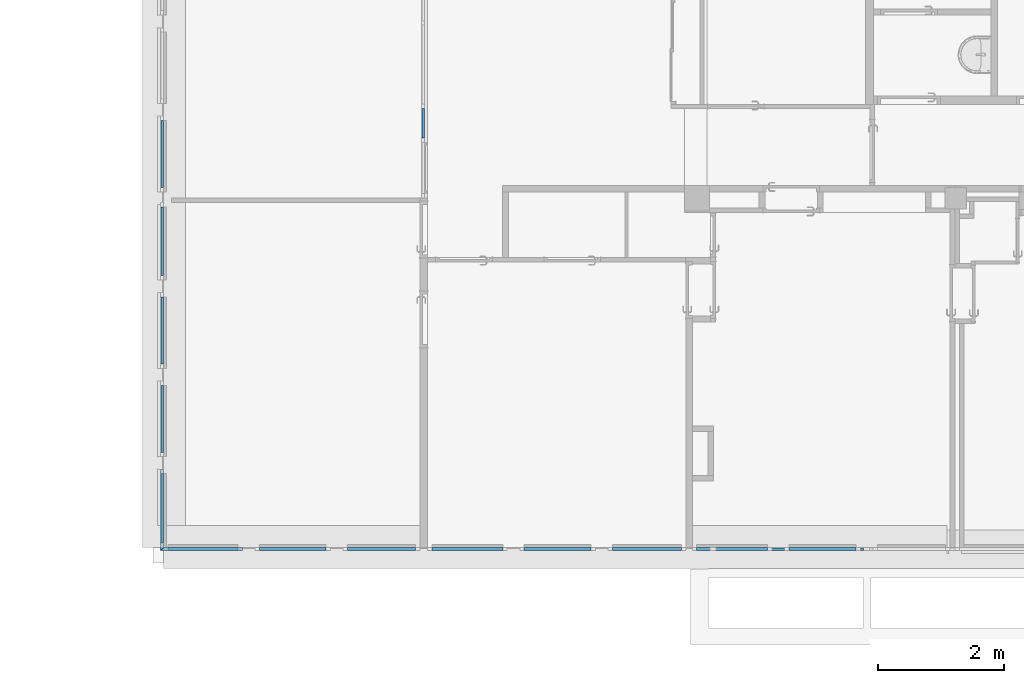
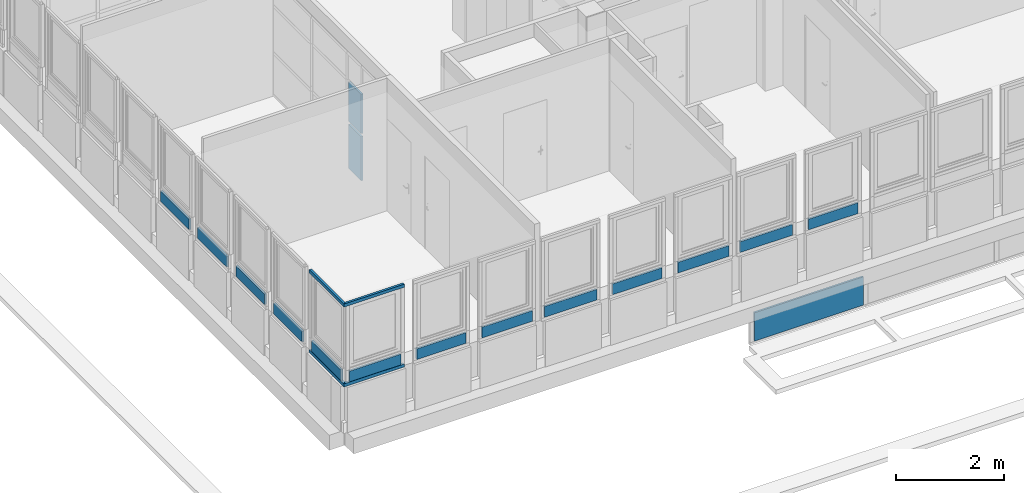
# One storey, part 26 of 97: 16 plates, 4 members, 15 elements without a shape of their own.
"""IFC4 building model written with IfcOpenShell, lengths in metres."""

from ifc_helpers import new_model, entity, si_unit, converted_unit, derived_unit, direction, frame, origin, place, context, subcontext, project, spatial, indexed_curve, outline, extrude, polygons, shape, source, transform, mapped, material, layer, layer_set, type_object, type_shapes, element, aggregate, save


model = new_model("IFC4")

# Units and contexts
model_context = context("Model", 3, precision=1e-05, world=origin(), true_north=direction((6.12303176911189e-17, 1.0)))
body_context = subcontext(model_context, "Body", "Model", "MODEL_VIEW")
footprint_context = subcontext(model_context, "FootPrint", "Model", "MODEL_VIEW")
ifc_project = project(units=[si_unit("LENGTHUNIT", "METRE"), si_unit("AREAUNIT", "SQUARE_METRE"), si_unit("VOLUMEUNIT", "CUBIC_METRE"), converted_unit("PLANEANGLEUNIT", "DEGREE", entity("IfcRatioMeasure", 0.0174532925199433), si_unit("PLANEANGLEUNIT", "RADIAN"), dimensions=[0, 0, 0, 0, 0, 0, 0]), si_unit("MASSUNIT", "GRAM", prefix="KILO"), derived_unit("MASSDENSITYUNIT", [(si_unit("MASSUNIT", "GRAM", prefix="KILO"), 1), (si_unit("LENGTHUNIT", "METRE"), -3)]), derived_unit("MOMENTOFINERTIAUNIT", [(si_unit("LENGTHUNIT", "METRE"), 4)]), si_unit("TIMEUNIT", "SECOND"), si_unit("FREQUENCYUNIT", "HERTZ"), si_unit("THERMODYNAMICTEMPERATUREUNIT", "DEGREE_CELSIUS"), derived_unit("THERMALTRANSMITTANCEUNIT", [(si_unit("MASSUNIT", "GRAM", prefix="KILO"), 1), (si_unit("THERMODYNAMICTEMPERATUREUNIT", "KELVIN"), -1), (si_unit("TIMEUNIT", "SECOND"), -3)]), derived_unit("VOLUMETRICFLOWRATEUNIT", [(si_unit("LENGTHUNIT", "METRE"), 3), (si_unit("TIMEUNIT", "SECOND"), -1)]), si_unit("ELECTRICCURRENTUNIT", "AMPERE"), si_unit("ELECTRICVOLTAGEUNIT", "VOLT"), si_unit("POWERUNIT", "WATT"), si_unit("FORCEUNIT", "NEWTON", prefix="KILO"), si_unit("ILLUMINANCEUNIT", "LUX"), si_unit("LUMINOUSFLUXUNIT", "LUMEN"), si_unit("LUMINOUSINTENSITYUNIT", "CANDELA"), derived_unit("USERDEFINED", [(si_unit("MASSUNIT", "GRAM", prefix="KILO"), -1), (si_unit("LENGTHUNIT", "METRE"), -2), (si_unit("TIMEUNIT", "SECOND"), 3), (si_unit("LUMINOUSFLUXUNIT", "LUMEN"), 1)]), derived_unit("LINEARVELOCITYUNIT", [(si_unit("LENGTHUNIT", "METRE"), 1), (si_unit("TIMEUNIT", "SECOND"), -1)]), si_unit("PRESSUREUNIT", "PASCAL"), derived_unit("USERDEFINED", [(si_unit("LENGTHUNIT", "METRE"), -2), (si_unit("MASSUNIT", "GRAM", prefix="KILO"), 1), (si_unit("TIMEUNIT", "SECOND"), -2)]), derived_unit("LINEARFORCEUNIT", [(si_unit("MASSUNIT", "GRAM", prefix="KILO"), 1), (si_unit("LENGTHUNIT", "METRE"), 1), (si_unit("TIMEUNIT", "SECOND"), -2), (si_unit("LENGTHUNIT", "METRE"), -1)]), derived_unit("PLANARFORCEUNIT", [(si_unit("MASSUNIT", "GRAM", prefix="KILO"), 1), (si_unit("LENGTHUNIT", "METRE"), 1), (si_unit("TIMEUNIT", "SECOND"), -2), (si_unit("LENGTHUNIT", "METRE"), -2)])], contexts=[model_context])

# Site, building, storey
site_placement = place(None, origin())
site = spatial("IfcSite", under=ifc_project, at=site_placement, Name="Default", CompositionType="ELEMENT")
building_placement = place(site_placement, origin())
building = spatial("IfcBuilding", under=site, at=building_placement, Name="HOTEL CONSULAIRE BOULOGNE SUR MER", CompositionType="ELEMENT")
storey_placement = place(building_placement, frame((0.0, 0.0, 3.62152697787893)))
storey = spatial("IfcBuildingStorey", under=building, at=storey_placement, Name="Niveau 1", CompositionType="ELEMENT", Elevation=3.62152697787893)

# Curtain wall, members
curtain_wall_type = type_object("IfcCurtainWallType", Name="Mur-rideau:Simple panneau", PredefinedType="NOTDEFINED")
curtain_wall_1_placement = place(storey_placement, frame((0.0, 0.0, -3.62152697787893)))
curtain_wall_1 = element("IfcCurtainWall", 1, at=curtain_wall_1_placement, inside=storey, type_object=curtain_wall_type, Name="Mur-rideau:Simple panneau", ObjectType="Mur-rideau:Simple panneau", PredefinedType="NOTDEFINED")
ifc_material_1 = material(Name="PVC - Blanc", Category="Plastique")
member_type_1 = type_object("IfcMemberType", Name="Meneau rectangulaire:50 x 35", PredefinedType="MULLION", material=ifc_material_1)
shared_shape_1 = source(origin(), body_context, "Body", "Tessellation", [
    polygons([(0.0, 0.0, 0.0), (-0.07, 0.0, 0.0), (-0.07, -0.05, 0.0), (0.0, -0.05, 0.0), (0.0, 0.0, -1.23865481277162), (-0.07, 0.0, -1.23865481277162), (-0.07, -0.05, -1.28865481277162), (0.0, -0.05, -1.28865481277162)], [[[3, 4, 1, 2]], [[2, 1, 5, 6]], [[3, 2, 6, 7]], [[4, 3, 7, 8]], [[1, 4, 8, 5]], [[8, 7, 6, 5]]], closed=True),
])
type_shapes(member_type_1, [shared_shape_1])
member_1_placement = place(storey_placement, frame((-13.7870998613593, -28.3114499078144, 2.67047302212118), z_axis=(0.0, 1.0, 0.0), x_axis=(0.0, 0.0, 1.0)))
member_1 = element("IfcMember", 2, at=member_1_placement, type_object=member_type_1, material=ifc_material_1, Name="Meneau rectangulaire:50 x 35", ObjectType="Meneau rectangulaire:50 x 35", PredefinedType="MULLION", context=body_context, shape_type="MappedRepresentation", body=[
    mapped(shared_shape_1, transform((0.0, 0.0, 0.0), scale=1.0)),
])
member_type_2 = type_object("IfcMemberType", Name="Meneau rectangulaire:50 x 35", PredefinedType="MULLION", material=ifc_material_1)
shared_shape_2 = source(origin(), body_context, "Body", "Tessellation", [
    polygons([(0.0, 0.0, -1.23865481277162), (0.0, -0.05, -1.23865481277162), (-0.07, -0.05, -1.23865481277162), (-0.07, 0.0, -1.23865481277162), (-0.07, 0.0, -3.10544761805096e-16), (0.0, 0.0, -3.10544761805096e-16), (-0.07, -0.05, 0.0499999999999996), (0.0, -0.05, 0.0499999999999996)], [[[1, 2, 3, 4]], [[5, 6, 1, 4]], [[7, 5, 4, 3]], [[8, 7, 3, 2]], [[6, 8, 2, 1]], [[5, 7, 8, 6]]], closed=True),
])
type_shapes(member_type_2, [shared_shape_2])
member_2_placement = place(storey_placement, frame((-13.7870998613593, -29.5501047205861, 0.791612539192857), z_axis=(0.0, -1.0, 0.0), x_axis=(0.0, 0.0, -1.0)))
member_2 = element("IfcMember", 3, at=member_2_placement, type_object=member_type_2, material=ifc_material_1, Name="Meneau rectangulaire:50 x 35", ObjectType="Meneau rectangulaire:50 x 35", PredefinedType="MULLION", context=body_context, shape_type="MappedRepresentation", body=[
    mapped(shared_shape_2, transform((0.0, 0.0, 0.0), scale=1.0)),
])

curtain_wall_2_placement = place(storey_placement, frame((0.0, 0.0, -3.62152697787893)))
curtain_wall_2 = element("IfcCurtainWall", 4, at=curtain_wall_2_placement, inside=storey, type_object=curtain_wall_type, Name="Mur-rideau:Simple panneau", ObjectType="Mur-rideau:Simple panneau", PredefinedType="NOTDEFINED")
member_type_3 = type_object("IfcMemberType", Name="Meneau rectangulaire:50 x 35", PredefinedType="MULLION", material=ifc_material_1)
shared_shape_3 = source(origin(), body_context, "Body", "Tessellation", [
    polygons([(0.0, 0.0, -1.24567988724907), (0.0, -0.05, -1.24567988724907), (-0.07, -0.05, -1.24567988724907), (-0.07, 0.0, -1.24567988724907), (-0.07, 0.0, -9.61886562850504e-16), (0.0, 0.0, -9.61886562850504e-16), (-0.07, -0.05, 0.049999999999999), (0.0, -0.05, 0.049999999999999)], [[[1, 2, 3, 4]], [[5, 6, 1, 4]], [[7, 5, 4, 3]], [[8, 7, 3, 2]], [[6, 8, 2, 1]], [[5, 7, 8, 6]]], closed=True),
])
type_shapes(member_type_3, [shared_shape_3])
member_3_placement = place(storey_placement, frame((-13.7870998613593, -29.5501047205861, 2.67047302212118), z_axis=(-1.0, 0.0, 0.0), x_axis=(0.0, 0.0, 1.0)))
member_3 = element("IfcMember", 5, at=member_3_placement, type_object=member_type_3, material=ifc_material_1, Name="Meneau rectangulaire:50 x 35", ObjectType="Meneau rectangulaire:50 x 35", PredefinedType="MULLION", context=body_context, shape_type="MappedRepresentation", body=[
    mapped(shared_shape_3, transform((0.0, 0.0, 0.0), scale=1.0)),
])
member_type_4 = type_object("IfcMemberType", Name="Meneau rectangulaire:50 x 35", PredefinedType="MULLION", material=ifc_material_1)
shared_shape_4 = source(origin(), body_context, "Body", "Tessellation", [
    polygons([(0.0, 0.0, 9.6188656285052e-16), (-0.07, 0.0, 9.6188656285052e-16), (-0.07, -0.05, 9.6188656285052e-16), (0.0, -0.05, 9.6188656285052e-16), (0.0, 0.0, -1.24567988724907), (-0.07, 0.0, -1.24567988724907), (-0.07, -0.05, -1.29567988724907), (0.0, -0.05, -1.29567988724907)], [[[3, 4, 1, 2]], [[2, 1, 5, 6]], [[3, 2, 6, 7]], [[4, 3, 7, 8]], [[1, 4, 8, 5]], [[8, 7, 6, 5]]], closed=True),
])
type_shapes(member_type_4, [shared_shape_4])
member_4_placement = place(storey_placement, frame((-12.5414199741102, -29.5501047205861, 0.791612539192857), z_axis=(1.0, 0.0, 0.0), x_axis=(0.0, 0.0, -1.0)))
member_4 = element("IfcMember", 6, at=member_4_placement, type_object=member_type_4, material=ifc_material_1, Name="Meneau rectangulaire:50 x 35", ObjectType="Meneau rectangulaire:50 x 35", PredefinedType="MULLION", context=body_context, shape_type="MappedRepresentation", body=[
    mapped(shared_shape_4, transform((0.0, 0.0, 0.0), scale=1.0)),
])

# Curtain wall, plate
curtain_wall_3_placement = place(storey_placement, frame((0.0, 0.0, -3.62152697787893)))
curtain_wall_3 = element("IfcCurtainWall", 7, at=curtain_wall_3_placement, inside=storey, type_object=curtain_wall_type, Name="Mur-rideau:Simple panneau", ObjectType="Mur-rideau:Simple panneau", PredefinedType="NOTDEFINED")
ifc_material_2 = material(Name="Verre", Category="Verre")
ifc_layer_1 = layer(ifc_material_2, 0.04, Name="Verre", Category="Verre")
ifc_layer_set_1 = layer_set([ifc_layer_1], Name="Mur-rideau:Simple panneau")
plate_type_1 = type_object("IfcPlateType", Name="Panneau système:Vitré", PredefinedType="CURTAIN_PANEL", material=ifc_layer_set_1)
shared_shape_5 = source(origin(), body_context, "Body", "SweptSolid", [
    extrude(outline(indexed_curve([(-0.02, -1.168), (0.02, -1.168), (0.02, 1.168), (-0.02, 1.168), (-0.02, -1.168)], self_intersect=False)), frame((1.168, 0.02, 0.0), z_axis=(0.0, 0.0, 1.0), x_axis=(0.0, 1.0, 0.0)), (0.0, 0.0, 1.0), 0.642526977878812),
])
shared_shape_6 = source(frame((-1.168, 0.00500000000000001, 0.0)), footprint_context, "FootPrint", "Curve2D", [
    entity("IfcIndexedPolyCurve", entity("IfcCartesianPointList2D", [[1.5240064, 0.003476], [1.5240064, 0.043476], [-0.8119936, 0.043476], [-0.8119936, 0.003476], [1.5240064, 0.003476]]), None, False),
])
type_shapes(plate_type_1, [shared_shape_5, shared_shape_6])
plate_1_placement = place(curtain_wall_3_placement, frame((-2.69377317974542, -29.5560671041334, 2.36600000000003), z_axis=(0.0, 0.0, 1.0), x_axis=(-1.0, 0.0, 0.0)))
plate_1 = element("IfcPlate", 8, at=plate_1_placement, type_object=plate_type_1, material=ifc_layer_set_1, Name="Panneau système:Vitré", ObjectType="Panneau système:Vitré", PredefinedType="CURTAIN_PANEL", shapes=[
    shape(body_context, "Body", "MappedRepresentation", [mapped(shared_shape_5, transform((0.0, 0.0, 0.0), scale=1.0))]),
    shape(body_context, "Body", "MappedRepresentation", [mapped(shared_shape_6, transform((0.0, 0.0, 0.0), scale=1.0))]),
])
aggregate(curtain_wall_3, [plate_1])

curtain_wall_4_placement = place(storey_placement, frame((0.0, 0.0, -3.62152697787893)))
curtain_wall_4 = element("IfcCurtainWall", 9, at=curtain_wall_4_placement, inside=storey, type_object=curtain_wall_type, Name="Mur-rideau:Simple panneau", ObjectType="Mur-rideau:Simple panneau", PredefinedType="NOTDEFINED")
plate_type_2 = type_object("IfcPlateType", Name="Panneau système:Vitré", PredefinedType="CURTAIN_PANEL", material=ifc_layer_set_1)
shared_shape_7 = source(origin(), body_context, "Body", "SweptSolid", [
    extrude(outline(indexed_curve([(-0.02, -0.530000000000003), (0.02, -0.530000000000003), (0.02, 0.530000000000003), (-0.02, 0.530000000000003), (-0.02, -0.530000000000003)], self_intersect=False)), frame((0.530000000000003, 0.02, 0.0), z_axis=(0.0, 0.0, 1.0), x_axis=(0.0, 1.0, 0.0)), (0.0, 0.0, 1.0), 0.243),
])
shared_shape_8 = source(frame((-0.530000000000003, 0.00500000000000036, 0.0)), footprint_context, "FootPrint", "Curve2D", [
    entity("IfcIndexedPolyCurve", entity("IfcCartesianPointList2D", [[0.691544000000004, 0.00347600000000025], [0.691544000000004, 0.0434760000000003], [-0.368456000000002, 0.0434760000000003], [-0.368456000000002, 0.00347600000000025], [0.691544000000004, 0.00347600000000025]]), None, False),
])
type_shapes(plate_type_2, [shared_shape_7, shared_shape_8])
plate_2_placement = place(curtain_wall_4_placement, frame((-13.7920998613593, -23.8414499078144, 4.48313951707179), z_axis=(0.0, 0.0, 1.0), x_axis=(0.0, 1.0, 0.0)))
plate_2 = element("IfcPlate", 10, at=plate_2_placement, type_object=plate_type_2, material=ifc_layer_set_1, Name="Panneau système:Vitré", ObjectType="Panneau système:Vitré", PredefinedType="CURTAIN_PANEL", shapes=[
    shape(body_context, "Body", "MappedRepresentation", [mapped(shared_shape_7, transform((0.0, 0.0, 0.0), scale=1.0))]),
    shape(body_context, "Body", "MappedRepresentation", [mapped(shared_shape_8, transform((0.0, 0.0, 0.0), scale=1.0))]),
])
aggregate(curtain_wall_4, [plate_2])

curtain_wall_5_placement = place(storey_placement, frame((0.0, 0.0, -3.62152697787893)))
curtain_wall_5 = element("IfcCurtainWall", 11, at=curtain_wall_5_placement, inside=storey, type_object=curtain_wall_type, Name="Mur-rideau:Simple panneau", ObjectType="Mur-rideau:Simple panneau", PredefinedType="NOTDEFINED")
plate_3_placement = place(curtain_wall_5_placement, frame((-13.7920998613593, -26.6414499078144, 4.48313951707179), z_axis=(0.0, 0.0, 1.0), x_axis=(0.0, 1.0, 0.0)))
plate_3 = element("IfcPlate", 12, at=plate_3_placement, type_object=plate_type_2, material=ifc_layer_set_1, Name="Panneau système:Vitré", ObjectType="Panneau système:Vitré", PredefinedType="CURTAIN_PANEL", shapes=[
    shape(body_context, "Body", "MappedRepresentation", [mapped(shared_shape_7, transform((0.0, 0.0, 0.0), scale=1.0))]),
    shape(body_context, "Body", "MappedRepresentation", [mapped(shared_shape_8, transform((0.0, 0.0, 0.0), scale=1.0))]),
])
aggregate(curtain_wall_5, [plate_3])

curtain_wall_6_placement = place(storey_placement, frame((0.0, 0.0, -3.62152697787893)))
curtain_wall_6 = element("IfcCurtainWall", 13, at=curtain_wall_6_placement, inside=storey, type_object=curtain_wall_type, Name="Mur-rideau:Simple panneau", ObjectType="Mur-rideau:Simple panneau", PredefinedType="NOTDEFINED")
plate_4_placement = place(curtain_wall_6_placement, frame((-13.7920998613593, -28.0414499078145, 4.48313951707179), z_axis=(0.0, 0.0, 1.0), x_axis=(0.0, 1.0, 0.0)))
plate_4 = element("IfcPlate", 14, at=plate_4_placement, type_object=plate_type_2, material=ifc_layer_set_1, Name="Panneau système:Vitré", ObjectType="Panneau système:Vitré", PredefinedType="CURTAIN_PANEL", shapes=[
    shape(body_context, "Body", "MappedRepresentation", [mapped(shared_shape_7, transform((0.0, 0.0, 0.0), scale=1.0))]),
    shape(body_context, "Body", "MappedRepresentation", [mapped(shared_shape_8, transform((0.0, 0.0, 0.0), scale=1.0))]),
])
aggregate(curtain_wall_6, [plate_4])

curtain_wall_7_placement = place(storey_placement, frame((0.0, 0.0, -3.62152697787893)))
curtain_wall_7 = element("IfcCurtainWall", 15, at=curtain_wall_7_placement, inside=storey, type_object=curtain_wall_type, Name="Mur-rideau:Simple panneau", ObjectType="Mur-rideau:Simple panneau", PredefinedType="NOTDEFINED")
plate_5_placement = place(curtain_wall_7_placement, frame((-11.2114199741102, -29.5551047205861, 4.48313951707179), z_axis=(0.0, 0.0, 1.0), x_axis=(-1.0, 0.0, 0.0)))
plate_5 = element("IfcPlate", 16, at=plate_5_placement, type_object=plate_type_2, material=ifc_layer_set_1, Name="Panneau système:Vitré", ObjectType="Panneau système:Vitré", PredefinedType="CURTAIN_PANEL", shapes=[
    shape(body_context, "Body", "MappedRepresentation", [mapped(shared_shape_7, transform((0.0, 0.0, 0.0), scale=1.0))]),
    shape(body_context, "Body", "MappedRepresentation", [mapped(shared_shape_8, transform((0.0, 0.0, 0.0), scale=1.0))]),
])
aggregate(curtain_wall_7, [plate_5])

curtain_wall_8_placement = place(storey_placement, frame((0.0, 0.0, -3.62152697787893)))
curtain_wall_8 = element("IfcCurtainWall", 17, at=curtain_wall_8_placement, inside=storey, type_object=curtain_wall_type, Name="Mur-rideau:Simple panneau", ObjectType="Mur-rideau:Simple panneau", PredefinedType="NOTDEFINED")
plate_6_placement = place(curtain_wall_8_placement, frame((-7.0114199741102, -29.5551047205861, 4.48313951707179), z_axis=(0.0, 0.0, 1.0), x_axis=(-1.0, 0.0, 0.0)))
plate_6 = element("IfcPlate", 18, at=plate_6_placement, type_object=plate_type_2, material=ifc_layer_set_1, Name="Panneau système:Vitré", ObjectType="Panneau système:Vitré", PredefinedType="CURTAIN_PANEL", shapes=[
    shape(body_context, "Body", "MappedRepresentation", [mapped(shared_shape_7, transform((0.0, 0.0, 0.0), scale=1.0))]),
    shape(body_context, "Body", "MappedRepresentation", [mapped(shared_shape_8, transform((0.0, 0.0, 0.0), scale=1.0))]),
])
aggregate(curtain_wall_8, [plate_6])

curtain_wall_9_placement = place(storey_placement, frame((0.0, 0.0, -3.62152697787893)))
curtain_wall_9 = element("IfcCurtainWall", 19, at=curtain_wall_9_placement, inside=storey, type_object=curtain_wall_type, Name="Mur-rideau:Simple panneau", ObjectType="Mur-rideau:Simple panneau", PredefinedType="NOTDEFINED")
plate_7_placement = place(curtain_wall_9_placement, frame((-2.81141997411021, -29.5551047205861, 4.48313951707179), z_axis=(0.0, 0.0, 1.0), x_axis=(-1.0, 0.0, 0.0)))
plate_7 = element("IfcPlate", 20, at=plate_7_placement, type_object=plate_type_2, material=ifc_layer_set_1, Name="Panneau système:Vitré", ObjectType="Panneau système:Vitré", PredefinedType="CURTAIN_PANEL", shapes=[
    shape(body_context, "Body", "MappedRepresentation", [mapped(shared_shape_7, transform((0.0, 0.0, 0.0), scale=1.0))]),
    shape(body_context, "Body", "MappedRepresentation", [mapped(shared_shape_8, transform((0.0, 0.0, 0.0), scale=1.0))]),
])
aggregate(curtain_wall_9, [plate_7])

curtain_wall_10_placement = place(storey_placement, frame((0.0, 0.0, -3.62152697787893)))
curtain_wall_10 = element("IfcCurtainWall", 21, at=curtain_wall_10_placement, inside=storey, type_object=curtain_wall_type, Name="Mur-rideau:Simple panneau", ObjectType="Mur-rideau:Simple panneau", PredefinedType="NOTDEFINED")
plate_type_3 = type_object("IfcPlateType", Name="Panneau système:Vitré", PredefinedType="CURTAIN_PANEL", material=ifc_layer_set_1)
shared_shape_9 = source(origin(), body_context, "Body", "SweptSolid", [
    extrude(outline(indexed_curve([(-0.02, -0.54609514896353), (0.02, -0.54609514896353), (0.02, 0.54609514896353), (-0.02, 0.54609514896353), (-0.02, -0.54609514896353)], self_intersect=False)), frame((0.54609514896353, 0.02, 0.0), z_axis=(0.0, 0.0, 1.0), x_axis=(0.0, 1.0, 0.0)), (0.0, 0.0, 1.0), 0.243),
])
shared_shape_10 = source(frame((-0.546095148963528, 0.00500000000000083, 0.0)), footprint_context, "FootPrint", "Curve2D", [
    entity("IfcIndexedPolyCurve", entity("IfcCartesianPointList2D", [[0.712544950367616, 0.00347600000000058], [0.712544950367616, 0.0434760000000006], [-0.379645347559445, 0.0434760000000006], [-0.379645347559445, 0.00347600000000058], [0.712544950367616, 0.00347600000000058]]), None, False),
])
type_shapes(plate_type_3, [shared_shape_9, shared_shape_10])
plate_8_placement = place(curtain_wall_10_placement, frame((-13.7920998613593, -25.2414499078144, 4.48313951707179), z_axis=(0.0, 0.0, 1.0), x_axis=(0.0, 1.0, 0.0)))
plate_8 = element("IfcPlate", 22, at=plate_8_placement, type_object=plate_type_3, material=ifc_layer_set_1, Name="Panneau système:Vitré", ObjectType="Panneau système:Vitré", PredefinedType="CURTAIN_PANEL", shapes=[
    shape(body_context, "Body", "MappedRepresentation", [mapped(shared_shape_9, transform((0.0, 0.0, 0.0), scale=1.0))]),
    shape(body_context, "Body", "MappedRepresentation", [mapped(shared_shape_10, transform((0.0, 0.0, 0.0), scale=1.0))]),
])
aggregate(curtain_wall_10, [plate_8])

# Plate
plate_type_4 = type_object("IfcPlateType", Name="Panneau système:Vitré", PredefinedType="CURTAIN_PANEL", material=ifc_layer_set_1)
shared_shape_11 = source(origin(), body_context, "Body", "SweptSolid", [
    extrude(outline(indexed_curve([(-0.02, -0.549327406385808), (0.02, -0.549327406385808), (0.02, 0.549327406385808), (-0.02, 0.549327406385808), (-0.02, -0.549327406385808)], self_intersect=False)), frame((0.549327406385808, 0.02, 0.0), z_axis=(0.0, 0.0, 1.0), x_axis=(0.0, 1.0, 0.0)), (0.0, 0.0, 1.0), 0.243),
])
shared_shape_12 = source(frame((-0.54932740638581, 0.00500000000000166, 0.0)), footprint_context, "FootPrint", "Curve2D", [
    entity("IfcIndexedPolyCurve", entity("IfcCartesianPointList2D", [[0.7167623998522, 0.00347600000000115], [0.7167623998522, 0.0434760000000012], [-0.381892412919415, 0.0434760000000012], [-0.381892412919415, 0.00347600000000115], [0.7167623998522, 0.00347600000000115]]), None, False),
])
type_shapes(plate_type_4, [shared_shape_11, shared_shape_12])
plate_9_placement = place(curtain_wall_1_placement, frame((-13.7920998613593, -29.4801047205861, 4.48313951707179), z_axis=(0.0, 0.0, 1.0), x_axis=(0.0, 1.0, 0.0)))
plate_9 = element("IfcPlate", 23, at=plate_9_placement, type_object=plate_type_4, material=ifc_layer_set_1, Name="Panneau système:Vitré", ObjectType="Panneau système:Vitré", PredefinedType="CURTAIN_PANEL", shapes=[
    shape(body_context, "Body", "MappedRepresentation", [mapped(shared_shape_11, transform((0.0, 0.0, 0.0), scale=1.0))]),
    shape(body_context, "Body", "MappedRepresentation", [mapped(shared_shape_12, transform((0.0, 0.0, 0.0), scale=1.0))]),
])

aggregate(curtain_wall_1, [plate_9, member_1, member_2])

plate_type_5 = type_object("IfcPlateType", Name="Panneau système:Vitré", PredefinedType="CURTAIN_PANEL", material=ifc_layer_set_1)
shared_shape_13 = source(origin(), body_context, "Body", "SweptSolid", [
    extrude(outline(indexed_curve([(-0.02, -0.552839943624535), (0.02, -0.552839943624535), (0.02, 0.552839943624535), (-0.02, 0.552839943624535), (-0.02, -0.552839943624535)], self_intersect=False)), frame((0.552839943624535, 0.02, 0.0), z_axis=(0.0, 0.0, 1.0), x_axis=(0.0, 1.0, 0.0)), (0.0, 0.0, 1.0), 0.243),
])
shared_shape_14 = source(frame((-0.552839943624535, 0.00499999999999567, 0.0)), footprint_context, "FootPrint", "Curve2D", [
    entity("IfcIndexedPolyCurve", entity("IfcCartesianPointList2D", [[0.721345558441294, 0.00347599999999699], [0.721345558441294, 0.043475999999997], [-0.384334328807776, 0.043475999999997], [-0.384334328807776, 0.00347599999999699], [0.721345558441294, 0.00347599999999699]]), None, False),
])
type_shapes(plate_type_5, [shared_shape_13, shared_shape_14])
plate_10_placement = place(curtain_wall_2_placement, frame((-12.6114199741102, -29.5551047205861, 4.48313951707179), z_axis=(0.0, 0.0, 1.0), x_axis=(-1.0, 0.0, 0.0)))
plate_10 = element("IfcPlate", 24, at=plate_10_placement, type_object=plate_type_5, material=ifc_layer_set_1, Name="Panneau système:Vitré", ObjectType="Panneau système:Vitré", PredefinedType="CURTAIN_PANEL", shapes=[
    shape(body_context, "Body", "MappedRepresentation", [mapped(shared_shape_13, transform((0.0, 0.0, 0.0), scale=1.0))]),
    shape(body_context, "Body", "MappedRepresentation", [mapped(shared_shape_14, transform((0.0, 0.0, 0.0), scale=1.0))]),
])

aggregate(curtain_wall_2, [plate_10, member_3, member_4])

# Curtain wall, plate
curtain_wall_11_placement = place(storey_placement, frame((0.0, 0.0, -3.62152697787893)))
curtain_wall_11 = element("IfcCurtainWall", 25, at=curtain_wall_11_placement, inside=storey, type_object=curtain_wall_type, Name="Mur-rideau:Simple panneau", ObjectType="Mur-rideau:Simple panneau", PredefinedType="NOTDEFINED")
plate_type_6 = type_object("IfcPlateType", Name="Panneau système:Vitré", PredefinedType="CURTAIN_PANEL", material=ifc_layer_set_1)
shared_shape_15 = source(origin(), body_context, "Body", "SweptSolid", [
    extrude(outline(indexed_curve([(-0.02, -0.538508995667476), (0.02, -0.538508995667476), (0.02, 0.538508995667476), (-0.02, 0.538508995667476), (-0.02, -0.538508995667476)], self_intersect=False)), frame((0.538508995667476, 0.02, 0.0), z_axis=(0.0, 0.0, 1.0), x_axis=(0.0, 1.0, 0.0)), (0.0, 0.0, 1.0), 0.243),
])
shared_shape_16 = source(frame((-0.538508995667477, 0.00500000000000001, 0.0)), footprint_context, "FootPrint", "Curve2D", [
    entity("IfcIndexedPolyCurve", entity("IfcCartesianPointList2D", [[0.702646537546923, 0.003476], [0.702646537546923, 0.043476], [-0.37437145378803, 0.043476], [-0.37437145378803, 0.003476], [0.702646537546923, 0.003476]]), None, False),
])
type_shapes(plate_type_6, [shared_shape_15, shared_shape_16])
plate_11_placement = place(curtain_wall_11_placement, frame((-9.79440198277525, -29.5551047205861, 4.48313951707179), z_axis=(0.0, 0.0, 1.0), x_axis=(-1.0, 0.0, 0.0)))
plate_11 = element("IfcPlate", 26, at=plate_11_placement, type_object=plate_type_6, material=ifc_layer_set_1, Name="Panneau système:Vitré", ObjectType="Panneau système:Vitré", PredefinedType="CURTAIN_PANEL", shapes=[
    shape(body_context, "Body", "MappedRepresentation", [mapped(shared_shape_15, transform((0.0, 0.0, 0.0), scale=1.0))]),
    shape(body_context, "Body", "MappedRepresentation", [mapped(shared_shape_16, transform((0.0, 0.0, 0.0), scale=1.0))]),
])
aggregate(curtain_wall_11, [plate_11])

curtain_wall_12_placement = place(storey_placement, frame((0.0, 0.0, -3.62152697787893)))
curtain_wall_12 = element("IfcCurtainWall", 27, at=curtain_wall_12_placement, inside=storey, type_object=curtain_wall_type, Name="Mur-rideau:Simple panneau", ObjectType="Mur-rideau:Simple panneau", PredefinedType="NOTDEFINED")
plate_type_7 = type_object("IfcPlateType", Name="Panneau système:Vitré", PredefinedType="CURTAIN_PANEL", material=ifc_layer_set_1)
shared_shape_17 = source(origin(), body_context, "Body", "SweptSolid", [
    extrude(outline(indexed_curve([(-0.02, -0.561491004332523), (0.02, -0.561491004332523), (0.02, 0.561491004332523), (-0.02, 0.561491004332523), (-0.02, -0.561491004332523)], self_intersect=False)), frame((0.561491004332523, 0.02, 0.0), z_axis=(0.0, 0.0, 1.0), x_axis=(0.0, 1.0, 0.0)), (0.0, 0.0, 1.0), 0.243),
])
shared_shape_18 = source(frame((-0.561491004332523, 0.00500000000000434, 0.0)), footprint_context, "FootPrint", "Curve2D", [
    entity("IfcIndexedPolyCurve", entity("IfcCartesianPointList2D", [[0.732633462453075, 0.00347600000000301], [0.732633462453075, 0.043476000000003], [-0.39034854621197, 0.043476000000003], [-0.39034854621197, 0.00347600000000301], [0.732633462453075, 0.00347600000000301]]), None, False),
])
type_shapes(plate_type_7, [shared_shape_17, shared_shape_18])
plate_12_placement = place(curtain_wall_12_placement, frame((-8.4114199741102, -29.5551047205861, 4.48313951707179), z_axis=(0.0, 0.0, 1.0), x_axis=(-1.0, 0.0, 0.0)))
plate_12 = element("IfcPlate", 28, at=plate_12_placement, type_object=plate_type_7, material=ifc_layer_set_1, Name="Panneau système:Vitré", ObjectType="Panneau système:Vitré", PredefinedType="CURTAIN_PANEL", shapes=[
    shape(body_context, "Body", "MappedRepresentation", [mapped(shared_shape_17, transform((0.0, 0.0, 0.0), scale=1.0))]),
    shape(body_context, "Body", "MappedRepresentation", [mapped(shared_shape_18, transform((0.0, 0.0, 0.0), scale=1.0))]),
])
aggregate(curtain_wall_12, [plate_12])

curtain_wall_13_placement = place(storey_placement, frame((0.0, 0.0, -3.62152697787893)))
curtain_wall_13 = element("IfcCurtainWall", 29, at=curtain_wall_13_placement, inside=storey, type_object=curtain_wall_type, Name="Mur-rideau:Simple panneau", ObjectType="Mur-rideau:Simple panneau", PredefinedType="NOTDEFINED")
plate_type_8 = type_object("IfcPlateType", Name="Panneau système:Vitré", PredefinedType="CURTAIN_PANEL", material=ifc_layer_set_1)
shared_shape_19 = source(origin(), body_context, "Body", "SweptSolid", [
    extrude(outline(indexed_curve([(-0.02, -0.54713845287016), (0.02, -0.54713845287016), (0.02, 0.54713845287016), (-0.02, 0.54713845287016), (-0.02, -0.54713845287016)], self_intersect=False)), frame((0.54713845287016, 0.02, 0.0), z_axis=(0.0, 0.0, 1.0), x_axis=(0.0, 1.0, 0.0)), (0.0, 0.0, 1.0), 0.243),
])
shared_shape_20 = source(frame((-0.54713845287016, 0.00499999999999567, 0.0)), footprint_context, "FootPrint", "Curve2D", [
    entity("IfcIndexedPolyCurve", entity("IfcCartesianPointList2D", [[0.713906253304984, 0.00347599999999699], [0.713906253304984, 0.043475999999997], [-0.380370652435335, 0.043475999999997], [-0.380370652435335, 0.00347599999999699], [0.713906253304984, 0.00347599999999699]]), None, False),
])
type_shapes(plate_type_8, [shared_shape_19, shared_shape_20])
plate_13_placement = place(curtain_wall_13_placement, frame((-5.57714306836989, -29.5551047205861, 4.48313951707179), z_axis=(0.0, 0.0, 1.0), x_axis=(-1.0, 0.0, 0.0)))
plate_13 = element("IfcPlate", 30, at=plate_13_placement, type_object=plate_type_8, material=ifc_layer_set_1, Name="Panneau système:Vitré", ObjectType="Panneau système:Vitré", PredefinedType="CURTAIN_PANEL", shapes=[
    shape(body_context, "Body", "MappedRepresentation", [mapped(shared_shape_19, transform((0.0, 0.0, 0.0), scale=1.0))]),
    shape(body_context, "Body", "MappedRepresentation", [mapped(shared_shape_20, transform((0.0, 0.0, 0.0), scale=1.0))]),
])
aggregate(curtain_wall_13, [plate_13])

curtain_wall_14_placement = place(storey_placement, frame((0.0, 0.0, -3.62152697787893)))
curtain_wall_14 = element("IfcCurtainWall", 31, at=curtain_wall_14_placement, inside=storey, type_object=curtain_wall_type, Name="Mur-rideau:Simple panneau", ObjectType="Mur-rideau:Simple panneau", PredefinedType="NOTDEFINED")
plate_type_9 = type_object("IfcPlateType", Name="Panneau système:Vitré", PredefinedType="CURTAIN_PANEL", material=ifc_layer_set_1)
shared_shape_21 = source(origin(), body_context, "Body", "SweptSolid", [
    extrude(outline(indexed_curve([(-0.02, -0.562861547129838), (0.02, -0.562861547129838), (0.02, 0.562861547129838), (-0.02, 0.562861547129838), (-0.02, -0.562861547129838)], self_intersect=False)), frame((0.562861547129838, 0.02, 0.0), z_axis=(0.0, 0.0, 1.0), x_axis=(0.0, 1.0, 0.0)), (0.0, 0.0, 1.0), 0.243),
])
shared_shape_22 = source(frame((-0.562861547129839, 0.00500000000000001, 0.0)), footprint_context, "FootPrint", "Curve2D", [
    entity("IfcIndexedPolyCurve", entity("IfcCartesianPointList2D", [[0.734421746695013, 0.003476], [0.734421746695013, 0.043476], [-0.391301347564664, 0.043476], [-0.391301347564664, 0.003476], [0.734421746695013, 0.003476]]), None, False),
])
type_shapes(plate_type_9, [shared_shape_21, shared_shape_22])
plate_14_placement = place(curtain_wall_14_placement, frame((-4.21141997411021, -29.5551047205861, 4.48313951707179), z_axis=(0.0, 0.0, 1.0), x_axis=(-1.0, 0.0, 0.0)))
plate_14 = element("IfcPlate", 32, at=plate_14_placement, type_object=plate_type_9, material=ifc_layer_set_1, Name="Panneau système:Vitré", ObjectType="Panneau système:Vitré", PredefinedType="CURTAIN_PANEL", shapes=[
    shape(body_context, "Body", "MappedRepresentation", [mapped(shared_shape_21, transform((0.0, 0.0, 0.0), scale=1.0))]),
    shape(body_context, "Body", "MappedRepresentation", [mapped(shared_shape_22, transform((0.0, 0.0, 0.0), scale=1.0))]),
])
aggregate(curtain_wall_14, [plate_14])

# Curtain wall, plates
curtain_wall_15_placement = place(storey_placement, frame((0.0, 0.0, -3.62152697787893)))
curtain_wall_15 = element("IfcCurtainWall", 33, at=curtain_wall_15_placement, inside=storey, type_object=curtain_wall_type, Name="Mur-rideau:Simple panneau", ObjectType="Mur-rideau:Simple panneau", PredefinedType="NOTDEFINED")
ifc_layer_2 = layer(ifc_material_2, 0.04, Name="Verre", Category="Verre")
ifc_layer_set_2 = layer_set([ifc_layer_2], Name="Mur-rideau:Simple panneau")
plate_type_10 = type_object("IfcPlateType", Name="Panneau système:Plein", PredefinedType="CURTAIN_PANEL", material=ifc_layer_set_2)
shared_shape_23 = source(origin(), body_context, "Body", "SweptSolid", [
    extrude(outline(indexed_curve([(-0.641306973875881, -0.235499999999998), (0.285653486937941, -0.235499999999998), (0.355653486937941, -0.235499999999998), (0.355653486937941, 0.235499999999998), (0.285653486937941, 0.235499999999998), (-0.641306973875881, 0.235499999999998), (-0.641306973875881, -0.235499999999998)], self_intersect=False)), frame((0.235499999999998, 0.0, 0.641306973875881), z_axis=(0.0, 1.0, 0.0), x_axis=(0.0, 0.0, 1.0)), (0.0, 0.0, 1.0), 0.04),
])
shared_shape_24 = source(frame((-0.235499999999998, 0.00500000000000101, 0.0)), footprint_context, "FootPrint", "Curve2D", [
    entity("IfcIndexedPolyCurve", entity("IfcCartesianPointList2D", [[-0.163719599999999, 0.0034760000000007], [-0.163719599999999, 0.0034760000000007], [-0.163719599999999, 0.0034760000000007], [0.307280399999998, 0.0034760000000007], [0.307280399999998, 0.0034760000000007], [0.307280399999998, 0.0034760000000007], [-0.163719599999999, 0.0034760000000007]]), None, False),
])
type_shapes(plate_type_10, [shared_shape_23, shared_shape_24])
plate_15_placement = place(curtain_wall_15_placement, frame((-9.65462464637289, -23.0612596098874, 3.67152697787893), z_axis=(0.0, 0.0, 1.0), x_axis=(0.0, 1.0, 0.0)))
plate_15 = element("IfcPlate", 34, at=plate_15_placement, type_object=plate_type_10, material=ifc_layer_set_2, Name="Panneau système:Plein", ObjectType="Panneau système:Plein", PredefinedType="CURTAIN_PANEL", shapes=[
    shape(body_context, "Body", "MappedRepresentation", [mapped(shared_shape_23, transform((0.0, 0.0, 0.0), scale=1.0))]),
    shape(body_context, "Body", "MappedRepresentation", [mapped(shared_shape_24, transform((0.0, 0.0, 0.0), scale=1.0))]),
])
plate_type_11 = type_object("IfcPlateType", Name="Panneau système:Vitré", PredefinedType="CURTAIN_PANEL", material=ifc_layer_set_1)
shared_shape_25 = source(origin(), body_context, "Body", "SweptSolid", [
    extrude(outline(indexed_curve([(-0.02, -0.235499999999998), (0.02, -0.235499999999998), (0.02, 0.235499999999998), (-0.02, 0.235499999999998), (-0.02, -0.235499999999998)], self_intersect=False)), frame((0.235499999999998, 0.02, 0.0), z_axis=(0.0, 0.0, 1.0), x_axis=(0.0, 1.0, 0.0)), (0.0, 0.0, 1.0), 0.894),
])
shared_shape_26 = source(frame((-0.235499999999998, 0.00500000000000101, 0.0)), footprint_context, "FootPrint", "Curve2D", [
    entity("IfcIndexedPolyCurve", entity("IfcCartesianPointList2D", [[0.307280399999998, 0.0034760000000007], [0.307280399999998, 0.0434760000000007], [-0.163719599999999, 0.0434760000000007], [-0.163719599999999, 0.0034760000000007], [0.307280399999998, 0.0034760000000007]]), None, False),
])
type_shapes(plate_type_11, [shared_shape_25, shared_shape_26])
plate_16_placement = place(curtain_wall_15_placement, frame((-9.65462464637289, -23.0612596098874, 4.73848743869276), z_axis=(0.0, 0.0, 1.0), x_axis=(0.0, 1.0, 0.0)))
plate_16 = element("IfcPlate", 35, at=plate_16_placement, type_object=plate_type_11, material=ifc_layer_set_1, Name="Panneau système:Vitré", ObjectType="Panneau système:Vitré", PredefinedType="CURTAIN_PANEL", shapes=[
    shape(body_context, "Body", "MappedRepresentation", [mapped(shared_shape_25, transform((0.0, 0.0, 0.0), scale=1.0))]),
    shape(body_context, "Body", "MappedRepresentation", [mapped(shared_shape_26, transform((0.0, 0.0, 0.0), scale=1.0))]),
])
aggregate(curtain_wall_15, [plate_15, plate_16])

save(model, "model.ifc")
